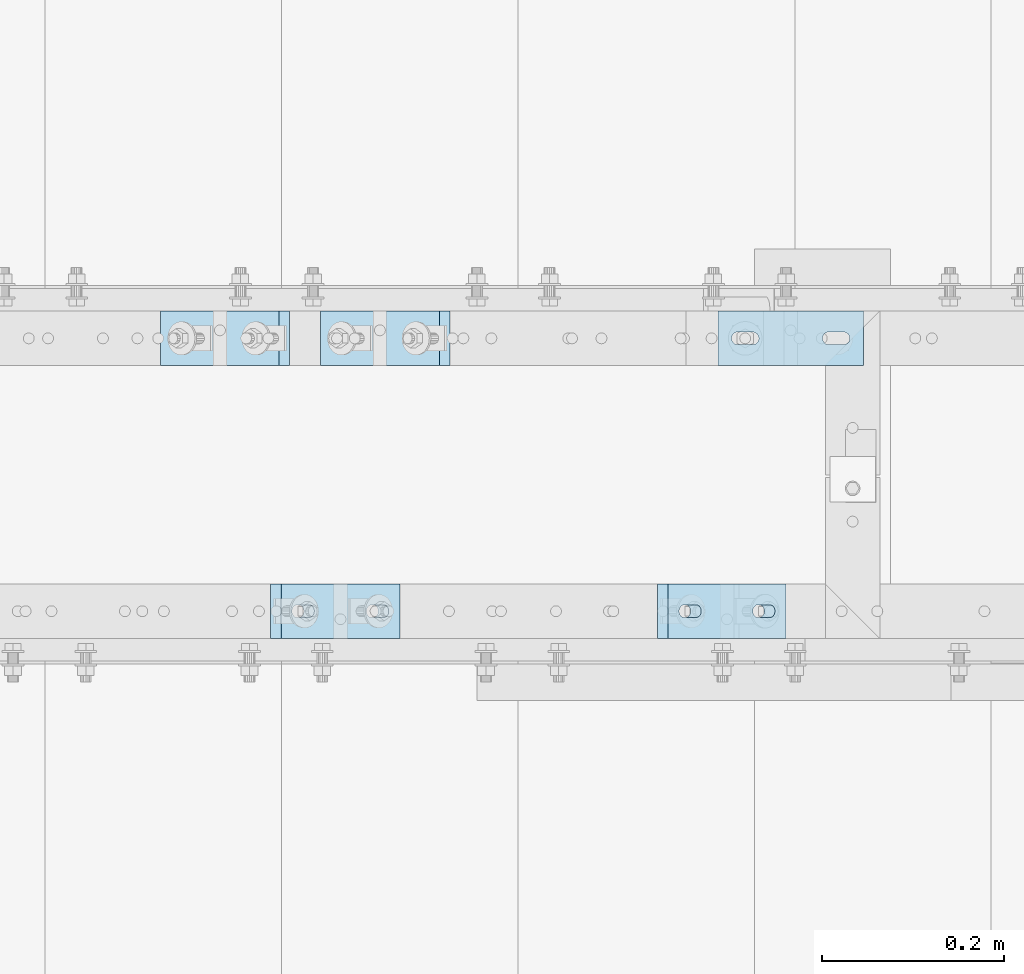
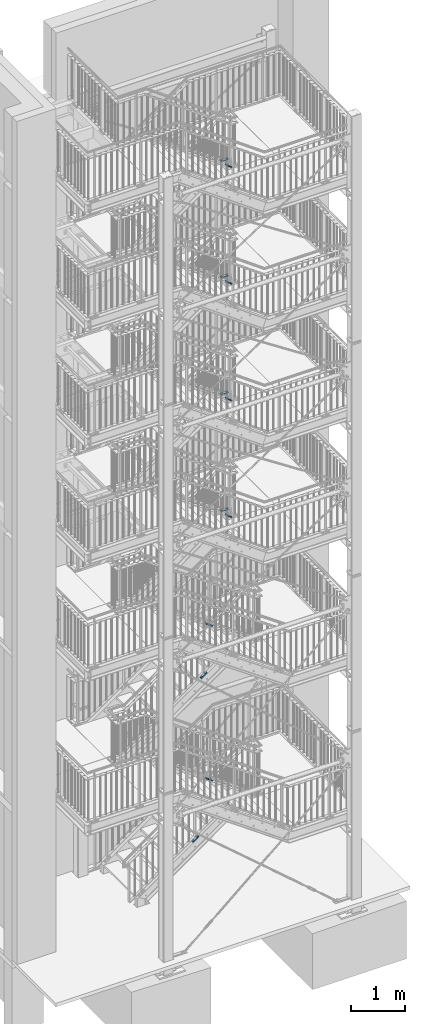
# One storey, part 174 of 825: 12 plates, 24 openings.
"""IFC2X3 building model written with IfcOpenShell, lengths in millimetres."""

import ifcopenshell
import ifcopenshell.guid

model = None  # the IFC model being written
_history = None  # IfcOwnerHistory: only IFC2X3 demands one
_inside = {}  # id of a spatial element -> (the spatial element, [elements in it])
_under = {}  # id of a project, library or spatial element -> (it, [spatial elements below it])
_declared = {}  # id of a project -> (the project, [libraries it declares])
_typed = {}  # id of a type object -> (the type object, [elements of that type])
_made_of = {}  # id of a material, layer set ... -> (it, [elements and type objects made of it])


def new_model(schema):
    """Start an empty IFC model of exactly this schema.

    Asked for "IFC4X3", IfcOpenShell would pick the latest addendum, in which some entities
    have other attributes; the version numbers below select the first issue.
    IFC2X3 requires an IfcOwnerHistory on every rooted entity: one is made here for all.
    """
    global model, _history
    if schema == "IFC4X3":
        model = ifcopenshell.file(schema_version=(4, 3, 0, 0))
    else:
        model = ifcopenshell.file(schema=schema)
    _inside.clear()
    _under.clear()
    _declared.clear()
    _typed.clear()
    _made_of.clear()
    _history = None
    if model.schema == "IFC2X3":
        org = make("IfcOrganization", Name="unknown")
        user = make(
            "IfcPersonAndOrganization",
            ThePerson=make("IfcPerson", FamilyName="unknown"),
            TheOrganization=org,
        )
        app = make(
            "IfcApplication",
            ApplicationDeveloper=org,
            Version="unknown",
            ApplicationFullName="unknown",
            ApplicationIdentifier="unknown",
        )
        _history = make(
            "IfcOwnerHistory",
            OwningUser=user,
            OwningApplication=app,
            ChangeAction="ADDED",
            CreationDate=0,
        )
    return model


def make(cls, **values):
    """One entity of the class cls with the attributes given. An attribute that is None is left unset."""
    return model.create_entity(
        cls, **{name: value for name, value in values.items() if value is not None}
    )


def entity(cls, *values):
    """Any entity or typed value of the class cls, its attributes in the order of the schema. None: left unset."""
    e = model.create_entity(cls)
    for i, value in enumerate(values):
        if value is not None:
            e[i] = value
    return e


def rooted(cls, **values):
    """An entity with a GlobalId (a new one), such as an element, a storey or a relation."""
    return make(cls, GlobalId=ifcopenshell.guid.new(), OwnerHistory=_history, **values)


def si_unit(unit_type, name, prefix=None):
    """IfcSIUnit, for example si_unit("LENGTHUNIT", "METRE", prefix="MILLI")."""
    return make("IfcSIUnit", UnitType=unit_type, Prefix=prefix, Name=name)


def converted_unit(unit_type, name, factor, base, dimensions=None, offset=None):
    """IfcConversionBasedUnit, such as the inch: factor (a typed value) times the base unit."""
    return make(
        "IfcConversionBasedUnit"
        if offset is None
        else "IfcConversionBasedUnitWithOffset",
        ConversionOffset=offset,
        Dimensions=None
        if dimensions is None
        else entity("IfcDimensionalExponents", *dimensions),
        UnitType=unit_type,
        Name=name,
        ConversionFactor=make(
            "IfcMeasureWithUnit", ValueComponent=factor, UnitComponent=base
        ),
    )


def assignment(units):
    """IfcUnitAssignment: the units of a project."""
    return None if units is None else make("IfcUnitAssignment", Units=units)


def point(xyz):
    """IfcCartesianPoint."""
    return None if xyz is None else make("IfcCartesianPoint", Coordinates=xyz)


def direction(xyz):
    """IfcDirection."""
    return None if xyz is None else make("IfcDirection", DirectionRatios=xyz)


def frame(location, z_axis=None, x_axis=None):
    """IfcAxis2Placement3D, a coordinate frame: its origin and axes. An axis left out is left unset."""
    return make(
        "IfcAxis2Placement3D",
        Location=point(location),
        Axis=direction(z_axis),
        RefDirection=direction(x_axis),
    )


def frame_2d(location, x_axis=None):
    """IfcAxis2Placement2D, a coordinate frame in the plane: its origin and x axis."""
    return make(
        "IfcAxis2Placement2D", Location=point(location), RefDirection=direction(x_axis)
    )


def origin():
    """The frame at (0, 0, 0) with its axes left unset."""
    return frame((0.0, 0.0, 0.0))


def origin_with_axes():
    """The frame at (0, 0, 0) with the z axis (0, 0, 1) and the x axis (1, 0, 0) written out."""
    return frame((0.0, 0.0, 0.0), z_axis=(0.0, 0.0, 1.0), x_axis=(1.0, 0.0, 0.0))


def place(relative_to, where):
    """IfcLocalPlacement: puts the frame where relative to a parent placement (None: the world)."""
    return make(
        "IfcLocalPlacement", PlacementRelTo=relative_to, RelativePlacement=where
    )


def context(
    kind, dimensions, precision=None, world=None, true_north=None, identifier=None
):
    """IfcGeometricRepresentationContext, for example the 3D "Model" context."""
    return make(
        "IfcGeometricRepresentationContext",
        ContextIdentifier=identifier,
        ContextType=kind,
        CoordinateSpaceDimension=dimensions,
        Precision=precision,
        WorldCoordinateSystem=world,
        TrueNorth=true_north,
    )


def project(units=None, contexts=None):
    """IfcProject with its units and contexts."""
    return rooted(
        "IfcProject",
        Name="project",
        RepresentationContexts=contexts,
        UnitsInContext=assignment(units),
    )


def spatial(cls, under=None, at=None, **own):
    """A site, building, storey or space (cls), placed at a placement, below another one or the project."""
    s = rooted(cls, ObjectPlacement=at, **own)
    if under is not None:
        _under.setdefault(under.id(), (under, []))[1].append(s)
    return s


def polyline(points):
    """IfcPolyline through the points."""
    return make("IfcPolyline", Points=[point(p) for p in points])


def circle_curve(where, radius):
    """IfcCircle in the frame where."""
    return make("IfcCircle", Position=where, Radius=radius)


def line_curve(start, along, magnitude):
    """IfcLine from a point along a vector."""
    return make(
        "IfcLine",
        Pnt=point(start),
        Dir=make("IfcVector", Orientation=direction(along), Magnitude=magnitude),
    )


def trimmed(basis, trim1, trim2, sense, master):
    """IfcTrimmedCurve: the piece of a basis curve between two trims."""
    return make(
        "IfcTrimmedCurve",
        BasisCurve=basis,
        Trim1=trim1,
        Trim2=trim2,
        SenseAgreement=sense,
        MasterRepresentation=master,
    )


def segment(curve, same_sense, transition):
    """IfcCompositeCurveSegment."""
    return make(
        "IfcCompositeCurveSegment",
        Transition=transition,
        SameSense=same_sense,
        ParentCurve=curve,
    )


def composite_curve(segments, self_intersect=None):
    """IfcCompositeCurve: segments joined end to end."""
    return make("IfcCompositeCurve", Segments=segments, SelfIntersect=self_intersect)


def outline(outer, holes=None, kind="AREA"):
    """IfcArbitraryClosedProfileDef: a profile drawn as a closed curve; with holes, ...WithVoids."""
    if holes is None:
        return make("IfcArbitraryClosedProfileDef", ProfileType=kind, OuterCurve=outer)
    return make(
        "IfcArbitraryProfileDefWithVoids",
        ProfileType=kind,
        OuterCurve=outer,
        InnerCurves=holes,
    )


def extrude(swept, where, along, depth):
    """IfcExtrudedAreaSolid: the profile swept, set in the frame where, extruded along a direction by depth."""
    return make(
        "IfcExtrudedAreaSolid",
        SweptArea=swept,
        Position=where,
        ExtrudedDirection=direction(along),
        Depth=depth,
    )


def shape(context_of_items, identifier, shape_type, items):
    """IfcShapeRepresentation: the items that make up one representation, for example the "Body"."""
    return make(
        "IfcShapeRepresentation",
        ContextOfItems=context_of_items,
        RepresentationIdentifier=identifier,
        RepresentationType=shape_type,
        Items=items,
    )


def material(Name=None, Category=None):
    """IfcMaterial."""
    return make("IfcMaterial", Name=Name, Category=Category)


def layer(
    of_material, thickness, ventilated=None, Name=None, Category=None, Priority=None
):
    """IfcMaterialLayer: one layer of a wall or slab, of a material (None: an air gap)."""
    return make(
        "IfcMaterialLayer",
        Material=of_material,
        LayerThickness=thickness,
        IsVentilated=ventilated,
        Name=Name,
        Category=Category,
        Priority=Priority,
    )


def layer_set(layers, Name=None):
    """IfcMaterialLayerSet."""
    return make("IfcMaterialLayerSet", MaterialLayers=layers, LayerSetName=Name)


def made_of(thing, what):
    """Note that an element or type object is made of a material, layer set ...; save() writes the relation."""
    if what is not None:
        _made_of.setdefault(what.id(), (what, []))[1].append(thing)
    return thing


def element(
    cls,
    number,
    at=None,
    inside=None,
    cuts=None,
    type_object=None,
    material=None,
    context=None,
    identifier="Body",
    shape_type=None,
    held_by="IfcProductDefinitionShape",
    body=None,
    shapes=None,
    **own,
):
    """One element of the class cls, such as IfcWall. Its Tag is "e" and its number.

    at: its placement. inside: the storey or other place that contains it. cuts: it is an
    opening in that element (IfcRelVoidsElement). A single representation is given by context,
    identifier, shape_type and body (its items); several are given by shapes. held_by: the class
    of the entity that holds the representations. save() writes the other relations.
    """
    e = rooted(cls, Tag="e%d" % number, ObjectPlacement=at, **own)
    if body is not None:
        shapes = [shape(context, identifier, shape_type, body)]
    if shapes is not None:
        e.Representation = make(held_by, Representations=shapes)
    if inside is not None:
        _inside.setdefault(inside.id(), (inside, []))[1].append(e)
    if cuts is not None:
        rooted(
            "IfcRelVoidsElement", RelatingBuildingElement=cuts, RelatedOpeningElement=e
        )
    if type_object is not None:
        _typed.setdefault(type_object.id(), (type_object, []))[1].append(e)
    return made_of(e, material)


def aggregate(whole, parts):
    """IfcRelAggregates: a whole, such as a stair, and the parts it consists of."""
    return rooted("IfcRelAggregates", RelatingObject=whole, RelatedObjects=parts)


def save(model, path):
    """Write the relations noted so far, then the file.

    IfcRelAggregates (storeys below a building ...), IfcRelContainedInSpatialStructure (elements
    in a storey), IfcRelDefinesByType, IfcRelAssociatesMaterial and IfcRelDeclares: one each for
    every whole, place, type object, material and project.
    """
    for whole, parts in _under.values():
        aggregate(whole, parts)
    for where, things in _inside.values():
        rooted(
            "IfcRelContainedInSpatialStructure",
            RelatedElements=things,
            RelatingStructure=where,
        )
    for kind, things in _typed.values():
        rooted("IfcRelDefinesByType", RelatedObjects=things, RelatingType=kind)
    for what, things in _made_of.values():
        rooted("IfcRelAssociatesMaterial", RelatedObjects=things, RelatingMaterial=what)
    for by, libraries in _declared.values():
        rooted("IfcRelDeclares", RelatingContext=by, RelatedDefinitions=libraries)
    model.write(path)


model = new_model("IFC2X3")

# Units and contexts
model_context = context("Model", 3, precision=1e-09, world=origin_with_axes())
ifc_project = project(units=[si_unit("LENGTHUNIT", "METRE", prefix="MILLI"), si_unit("AREAUNIT", "SQUARE_METRE"), si_unit("VOLUMEUNIT", "CUBIC_METRE"), converted_unit("PLANEANGLEUNIT", "DEGREE", entity("IfcPlaneAngleMeasure", 0.01745329), si_unit("PLANEANGLEUNIT", "RADIAN"), dimensions=[0, 0, 0, 0, 0, 0, 0])], contexts=[model_context])

# Site, building, storey
site_placement = place(None, origin_with_axes())
site = spatial("IfcSite", under=ifc_project, at=site_placement, Name="Cnopf'sche Kinderklinik", CompositionType="ELEMENT")
building_placement = place(site_placement, origin_with_axes())
building = spatial("IfcBuilding", under=site, at=building_placement, Name="Struktur 1", CompositionType="ELEMENT")
storey_placement = place(building_placement, origin_with_axes())
storey = spatial("IfcBuildingStorey", under=building, at=storey_placement, Name="Default Storey", CompositionType="ELEMENT", Elevation=0.0)

# Plate, openings
ifc_material = material(Name="S235JR")
ifc_layer = layer(ifc_material, 20.0)
ifc_layer_set = layer_set([ifc_layer], Name="S235JR")
plate_1_placement = place(None, frame((6545.888810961, 6121.736971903, 1487.163948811), z_axis=(-0.579973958, 0.0, 0.814635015), x_axis=(-0.814635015, 0.0, -0.579973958)))
plate_1 = element("IfcPlate", 1, at=plate_1_placement, inside=storey, material=ifc_layer_set, Name="Plate#501", ObjectType="Plate#501", context=model_context, shape_type="SweptSolid", body=[
    extrude(outline(polyline([(0.0, 0.0), (160.0, 0.0), (160.0, 60.0), (0.0, 60.0), (0.0, 0.0)])), origin_with_axes(), (0.0, 0.0, 1.0), 20.0),
])
opening_1_placement = place(plate_1_placement, frame((38.0, 37.001, 20.5), z_axis=(0.0, 0.0, 1.0), x_axis=(-1.0, 0.0, 0.0)))
element("IfcOpeningElement", 2, at=opening_1_placement, cuts=plate_1, ObjectType="Opening", context=model_context, shape_type="SweptSolid", body=[
    extrude(outline(composite_curve([segment(trimmed(line_curve((0.0, 0.0), (1.0, 0.0), 16.0), [point((0.0, 0.0))], [point((16.0, 0.0))], True, "CARTESIAN"), True, "CONTINUOUS"), segment(trimmed(circle_curve(frame_2d((16.0, 7.001), x_axis=(1.0, 0.0)), 7.001), [point((16.0, 0.0))], [point((16.0, 14.002))], True, "CARTESIAN"), True, "CONTINUOUS"), segment(trimmed(line_curve((16.0, 14.002), (-1.0, 0.0), 16.0), [point((16.0, 14.002))], [point((0.0, 14.002))], True, "CARTESIAN"), True, "CONTINUOUS"), segment(trimmed(circle_curve(frame_2d((0.0, 7.001), x_axis=(1.0, 0.0)), 7.001), [point((0.0, 14.002))], [point((0.0, 0.0))], True, "CARTESIAN"), True, "CONTINUOUS")], self_intersect=False)), origin(), (0.0, 0.0, -1.0), 21.0),
])
opening_2_placement = place(plate_1_placement, frame((138.0, 37.001, 20.5), z_axis=(0.0, 0.0, 1.0), x_axis=(-1.0, 0.0, 0.0)))
element("IfcOpeningElement", 3, at=opening_2_placement, cuts=plate_1, ObjectType="Opening", context=model_context, shape_type="SweptSolid", body=[
    extrude(outline(composite_curve([segment(trimmed(line_curve((0.0, 0.0), (1.0, 0.0), 16.0), [point((0.0, 0.0))], [point((16.0, 0.0))], True, "CARTESIAN"), True, "CONTINUOUS"), segment(trimmed(circle_curve(frame_2d((16.0, 7.001), x_axis=(1.0, 0.0)), 7.001), [point((16.0, 0.0))], [point((16.0, 14.002))], True, "CARTESIAN"), True, "CONTINUOUS"), segment(trimmed(line_curve((16.0, 14.002), (-1.0, 0.0), 16.0), [point((16.0, 14.002))], [point((0.0, 14.002))], True, "CARTESIAN"), True, "CONTINUOUS"), segment(trimmed(circle_curve(frame_2d((0.0, 7.001), x_axis=(1.0, 0.0)), 7.001), [point((0.0, 14.002))], [point((0.0, 0.0))], True, "CARTESIAN"), True, "CONTINUOUS")], self_intersect=False)), origin(), (0.0, 0.0, -1.0), 21.0),
])

plate_2_placement = place(None, frame((6722.064782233, 6121.736971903, 5114.045615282), z_axis=(-0.575128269, 0.0, 0.818063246), x_axis=(-0.818063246, 0.0, -0.575128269)))
plate_2 = element("IfcPlate", 4, at=plate_2_placement, inside=storey, material=ifc_layer_set, Name="Plate#502", ObjectType="Plate#502", context=model_context, shape_type="SweptSolid", body=[
    extrude(outline(polyline([(0.0, 0.0), (160.0, 0.0), (160.0, 60.0), (0.0, 60.0), (0.0, 0.0)])), origin_with_axes(), (0.0, 0.0, 1.0), 20.0),
])
opening_3_placement = place(plate_2_placement, frame((38.0, 37.001, 20.5), z_axis=(0.0, 0.0, 1.0), x_axis=(-1.0, 0.0, 0.0)))
element("IfcOpeningElement", 5, at=opening_3_placement, cuts=plate_2, ObjectType="Opening", context=model_context, shape_type="SweptSolid", body=[
    extrude(outline(composite_curve([segment(trimmed(line_curve((0.0, 0.0), (1.0, 0.0), 16.0), [point((0.0, 0.0))], [point((16.0, 0.0))], True, "CARTESIAN"), True, "CONTINUOUS"), segment(trimmed(circle_curve(frame_2d((16.0, 7.001), x_axis=(1.0, 0.0)), 7.001), [point((16.0, 0.0))], [point((16.0, 14.002))], True, "CARTESIAN"), True, "CONTINUOUS"), segment(trimmed(line_curve((16.0, 14.002), (-1.0, 0.0), 16.0), [point((16.0, 14.002))], [point((0.0, 14.002))], True, "CARTESIAN"), True, "CONTINUOUS"), segment(trimmed(circle_curve(frame_2d((0.0, 7.001), x_axis=(1.0, 0.0)), 7.001), [point((0.0, 14.002))], [point((0.0, 0.0))], True, "CARTESIAN"), True, "CONTINUOUS")], self_intersect=False)), origin(), (0.0, 0.0, -1.0), 21.0),
])
opening_4_placement = place(plate_2_placement, frame((138.0, 37.001, 20.5), z_axis=(0.0, 0.0, 1.0), x_axis=(-1.0, 0.0, 0.0)))
element("IfcOpeningElement", 6, at=opening_4_placement, cuts=plate_2, ObjectType="Opening", context=model_context, shape_type="SweptSolid", body=[
    extrude(outline(composite_curve([segment(trimmed(line_curve((0.0, 0.0), (1.0, 0.0), 16.0), [point((0.0, 0.0))], [point((16.0, 0.0))], True, "CARTESIAN"), True, "CONTINUOUS"), segment(trimmed(circle_curve(frame_2d((16.0, 7.001), x_axis=(1.0, 0.0)), 7.001), [point((16.0, 0.0))], [point((16.0, 14.002))], True, "CARTESIAN"), True, "CONTINUOUS"), segment(trimmed(line_curve((16.0, 14.002), (-1.0, 0.0), 16.0), [point((16.0, 14.002))], [point((0.0, 14.002))], True, "CARTESIAN"), True, "CONTINUOUS"), segment(trimmed(circle_curve(frame_2d((0.0, 7.001), x_axis=(1.0, 0.0)), 7.001), [point((0.0, 14.002))], [point((0.0, 0.0))], True, "CARTESIAN"), True, "CONTINUOUS")], self_intersect=False)), origin(), (0.0, 0.0, -1.0), 21.0),
])

plate_3_placement = place(None, frame((7176.714402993, 6121.736971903, 8636.0), z_axis=(0.0, 0.0, 1.0), x_axis=(-1.0, 0.0, 0.0)))
plate_3 = element("IfcPlate", 7, at=plate_3_placement, inside=storey, material=ifc_layer_set, Name="Plate#502", ObjectType="Plate#502", context=model_context, shape_type="SweptSolid", body=[
    extrude(outline(polyline([(0.0, 0.0), (160.0, 0.0), (160.0, 60.0), (0.0, 60.0), (0.0, 0.0)])), origin_with_axes(), (0.0, 0.0, 1.0), 20.0),
])
opening_5_placement = place(plate_3_placement, frame((38.0, 37.001, 20.5), z_axis=(0.0, 0.0, 1.0), x_axis=(-1.0, 0.0, 0.0)))
element("IfcOpeningElement", 8, at=opening_5_placement, cuts=plate_3, ObjectType="Opening", context=model_context, shape_type="SweptSolid", body=[
    extrude(outline(composite_curve([segment(trimmed(line_curve((0.0, 0.0), (1.0, 0.0), 16.0), [point((0.0, 0.0))], [point((16.0, 0.0))], True, "CARTESIAN"), True, "CONTINUOUS"), segment(trimmed(circle_curve(frame_2d((16.0, 7.001), x_axis=(1.0, 0.0)), 7.001), [point((16.0, 0.0))], [point((16.0, 14.002))], True, "CARTESIAN"), True, "CONTINUOUS"), segment(trimmed(line_curve((16.0, 14.002), (-1.0, 0.0), 16.0), [point((16.0, 14.002))], [point((0.0, 14.002))], True, "CARTESIAN"), True, "CONTINUOUS"), segment(trimmed(circle_curve(frame_2d((0.0, 7.001), x_axis=(1.0, 0.0)), 7.001), [point((0.0, 14.002))], [point((0.0, 0.0))], True, "CARTESIAN"), True, "CONTINUOUS")], self_intersect=False)), origin(), (0.0, 0.0, -1.0), 21.0),
])
opening_6_placement = place(plate_3_placement, frame((138.0, 37.001, 20.5), z_axis=(0.0, 0.0, 1.0), x_axis=(-1.0, 0.0, 0.0)))
element("IfcOpeningElement", 9, at=opening_6_placement, cuts=plate_3, ObjectType="Opening", context=model_context, shape_type="SweptSolid", body=[
    extrude(outline(composite_curve([segment(trimmed(line_curve((0.0, 0.0), (1.0, 0.0), 16.0), [point((0.0, 0.0))], [point((16.0, 0.0))], True, "CARTESIAN"), True, "CONTINUOUS"), segment(trimmed(circle_curve(frame_2d((16.0, 7.001), x_axis=(1.0, 0.0)), 7.001), [point((16.0, 0.0))], [point((16.0, 14.002))], True, "CARTESIAN"), True, "CONTINUOUS"), segment(trimmed(line_curve((16.0, 14.002), (-1.0, 0.0), 16.0), [point((16.0, 14.002))], [point((0.0, 14.002))], True, "CARTESIAN"), True, "CONTINUOUS"), segment(trimmed(circle_curve(frame_2d((0.0, 7.001), x_axis=(1.0, 0.0)), 7.001), [point((0.0, 14.002))], [point((0.0, 0.0))], True, "CARTESIAN"), True, "CONTINUOUS")], self_intersect=False)), origin(), (0.0, 0.0, -1.0), 21.0),
])

plate_4_placement = place(None, frame((7176.714402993, 6121.736971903, 11265.5000003), z_axis=(0.0, 0.0, 1.0), x_axis=(-1.0, 0.0, 0.0)))
plate_4 = element("IfcPlate", 10, at=plate_4_placement, inside=storey, material=ifc_layer_set, Name="Plate#502", ObjectType="Plate#502", context=model_context, shape_type="SweptSolid", body=[
    extrude(outline(polyline([(0.0, 0.0), (160.0, 0.0), (160.0, 60.0), (0.0, 60.0), (0.0, 0.0)])), origin_with_axes(), (0.0, 0.0, 1.0), 20.0),
])
opening_7_placement = place(plate_4_placement, frame((38.0, 37.001, 20.5), z_axis=(0.0, 0.0, 1.0), x_axis=(-1.0, 0.0, 0.0)))
element("IfcOpeningElement", 11, at=opening_7_placement, cuts=plate_4, ObjectType="Opening", context=model_context, shape_type="SweptSolid", body=[
    extrude(outline(composite_curve([segment(trimmed(line_curve((0.0, 0.0), (1.0, 0.0), 16.0), [point((0.0, 0.0))], [point((16.0, 0.0))], True, "CARTESIAN"), True, "CONTINUOUS"), segment(trimmed(circle_curve(frame_2d((16.0, 7.001), x_axis=(1.0, 0.0)), 7.001), [point((16.0, 0.0))], [point((16.0, 14.002))], True, "CARTESIAN"), True, "CONTINUOUS"), segment(trimmed(line_curve((16.0, 14.002), (-1.0, 0.0), 16.0), [point((16.0, 14.002))], [point((0.0, 14.002))], True, "CARTESIAN"), True, "CONTINUOUS"), segment(trimmed(circle_curve(frame_2d((0.0, 7.001), x_axis=(1.0, 0.0)), 7.001), [point((0.0, 14.002))], [point((0.0, 0.0))], True, "CARTESIAN"), True, "CONTINUOUS")], self_intersect=False)), origin(), (0.0, 0.0, -1.0), 21.0),
])
opening_8_placement = place(plate_4_placement, frame((138.0, 37.001, 20.5), z_axis=(0.0, 0.0, 1.0), x_axis=(-1.0, 0.0, 0.0)))
element("IfcOpeningElement", 12, at=opening_8_placement, cuts=plate_4, ObjectType="Opening", context=model_context, shape_type="SweptSolid", body=[
    extrude(outline(composite_curve([segment(trimmed(line_curve((0.0, 0.0), (1.0, 0.0), 16.0), [point((0.0, 0.0))], [point((16.0, 0.0))], True, "CARTESIAN"), True, "CONTINUOUS"), segment(trimmed(circle_curve(frame_2d((16.0, 7.001), x_axis=(1.0, 0.0)), 7.001), [point((16.0, 0.0))], [point((16.0, 14.002))], True, "CARTESIAN"), True, "CONTINUOUS"), segment(trimmed(line_curve((16.0, 14.002), (-1.0, 0.0), 16.0), [point((16.0, 14.002))], [point((0.0, 14.002))], True, "CARTESIAN"), True, "CONTINUOUS"), segment(trimmed(circle_curve(frame_2d((0.0, 7.001), x_axis=(1.0, 0.0)), 7.001), [point((0.0, 14.002))], [point((0.0, 0.0))], True, "CARTESIAN"), True, "CONTINUOUS")], self_intersect=False)), origin(), (0.0, 0.0, -1.0), 21.0),
])

plate_5_placement = place(None, frame((7176.714402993, 6121.736971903, 13896.5000001), z_axis=(0.0, 0.0, 1.0), x_axis=(-1.0, 0.0, 0.0)))
plate_5 = element("IfcPlate", 13, at=plate_5_placement, inside=storey, material=ifc_layer_set, Name="Plate#502", ObjectType="Plate#502", context=model_context, shape_type="SweptSolid", body=[
    extrude(outline(polyline([(0.0, 0.0), (160.0, 0.0), (160.0, 60.0), (0.0, 60.0), (0.0, 0.0)])), origin_with_axes(), (0.0, 0.0, 1.0), 20.0),
])
opening_9_placement = place(plate_5_placement, frame((38.0, 37.001, 20.5), z_axis=(0.0, 0.0, 1.0), x_axis=(-1.0, 0.0, 0.0)))
element("IfcOpeningElement", 14, at=opening_9_placement, cuts=plate_5, ObjectType="Opening", context=model_context, shape_type="SweptSolid", body=[
    extrude(outline(composite_curve([segment(trimmed(line_curve((0.0, 0.0), (1.0, 0.0), 16.0), [point((0.0, 0.0))], [point((16.0, 0.0))], True, "CARTESIAN"), True, "CONTINUOUS"), segment(trimmed(circle_curve(frame_2d((16.0, 7.001), x_axis=(1.0, 0.0)), 7.001), [point((16.0, 0.0))], [point((16.0, 14.002))], True, "CARTESIAN"), True, "CONTINUOUS"), segment(trimmed(line_curve((16.0, 14.002), (-1.0, 0.0), 16.0), [point((16.0, 14.002))], [point((0.0, 14.002))], True, "CARTESIAN"), True, "CONTINUOUS"), segment(trimmed(circle_curve(frame_2d((0.0, 7.001), x_axis=(1.0, 0.0)), 7.001), [point((0.0, 14.002))], [point((0.0, 0.0))], True, "CARTESIAN"), True, "CONTINUOUS")], self_intersect=False)), origin(), (0.0, 0.0, -1.0), 21.0),
])
opening_10_placement = place(plate_5_placement, frame((138.0, 37.001, 20.5), z_axis=(0.0, 0.0, 1.0), x_axis=(-1.0, 0.0, 0.0)))
element("IfcOpeningElement", 15, at=opening_10_placement, cuts=plate_5, ObjectType="Opening", context=model_context, shape_type="SweptSolid", body=[
    extrude(outline(composite_curve([segment(trimmed(line_curve((0.0, 0.0), (1.0, 0.0), 16.0), [point((0.0, 0.0))], [point((16.0, 0.0))], True, "CARTESIAN"), True, "CONTINUOUS"), segment(trimmed(circle_curve(frame_2d((16.0, 7.001), x_axis=(1.0, 0.0)), 7.001), [point((16.0, 0.0))], [point((16.0, 14.002))], True, "CARTESIAN"), True, "CONTINUOUS"), segment(trimmed(line_curve((16.0, 14.002), (-1.0, 0.0), 16.0), [point((16.0, 14.002))], [point((0.0, 14.002))], True, "CARTESIAN"), True, "CONTINUOUS"), segment(trimmed(circle_curve(frame_2d((0.0, 7.001), x_axis=(1.0, 0.0)), 7.001), [point((0.0, 14.002))], [point((0.0, 0.0))], True, "CARTESIAN"), True, "CONTINUOUS")], self_intersect=False)), origin(), (0.0, 0.0, -1.0), 21.0),
])

plate_6_placement = place(None, frame((7176.714402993, 6121.736971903, 16524.0000003), z_axis=(0.0, 0.0, 1.0), x_axis=(-1.0, 0.0, 0.0)))
plate_6 = element("IfcPlate", 16, at=plate_6_placement, inside=storey, material=ifc_layer_set, Name="Plate#502", ObjectType="Plate#502", context=model_context, shape_type="SweptSolid", body=[
    extrude(outline(polyline([(0.0, 0.0), (160.0, 0.0), (160.0, 60.0), (0.0, 60.0), (0.0, 0.0)])), origin_with_axes(), (0.0, 0.0, 1.0), 20.0),
])
opening_11_placement = place(plate_6_placement, frame((38.0, 37.001, 20.5), z_axis=(0.0, 0.0, 1.0), x_axis=(-1.0, 0.0, 0.0)))
element("IfcOpeningElement", 17, at=opening_11_placement, cuts=plate_6, ObjectType="Opening", context=model_context, shape_type="SweptSolid", body=[
    extrude(outline(composite_curve([segment(trimmed(line_curve((0.0, 0.0), (1.0, 0.0), 16.0), [point((0.0, 0.0))], [point((16.0, 0.0))], True, "CARTESIAN"), True, "CONTINUOUS"), segment(trimmed(circle_curve(frame_2d((16.0, 7.001), x_axis=(1.0, 0.0)), 7.001), [point((16.0, 0.0))], [point((16.0, 14.002))], True, "CARTESIAN"), True, "CONTINUOUS"), segment(trimmed(line_curve((16.0, 14.002), (-1.0, 0.0), 16.0), [point((16.0, 14.002))], [point((0.0, 14.002))], True, "CARTESIAN"), True, "CONTINUOUS"), segment(trimmed(circle_curve(frame_2d((0.0, 7.001), x_axis=(1.0, 0.0)), 7.001), [point((0.0, 14.002))], [point((0.0, 0.0))], True, "CARTESIAN"), True, "CONTINUOUS")], self_intersect=False)), origin(), (0.0, 0.0, -1.0), 21.0),
])
opening_12_placement = place(plate_6_placement, frame((138.0, 37.001, 20.5), z_axis=(0.0, 0.0, 1.0), x_axis=(-1.0, 0.0, 0.0)))
element("IfcOpeningElement", 18, at=opening_12_placement, cuts=plate_6, ObjectType="Opening", context=model_context, shape_type="SweptSolid", body=[
    extrude(outline(composite_curve([segment(trimmed(line_curve((0.0, 0.0), (1.0, 0.0), 16.0), [point((0.0, 0.0))], [point((16.0, 0.0))], True, "CARTESIAN"), True, "CONTINUOUS"), segment(trimmed(circle_curve(frame_2d((16.0, 7.001), x_axis=(1.0, 0.0)), 7.001), [point((16.0, 0.0))], [point((16.0, 14.002))], True, "CARTESIAN"), True, "CONTINUOUS"), segment(trimmed(line_curve((16.0, 14.002), (-1.0, 0.0), 16.0), [point((16.0, 14.002))], [point((0.0, 14.002))], True, "CARTESIAN"), True, "CONTINUOUS"), segment(trimmed(circle_curve(frame_2d((0.0, 7.001), x_axis=(1.0, 0.0)), 7.001), [point((0.0, 14.002))], [point((0.0, 0.0))], True, "CARTESIAN"), True, "CONTINUOUS")], self_intersect=False)), origin(), (0.0, 0.0, -1.0), 21.0),
])

plate_7_placement = place(None, frame((6525.039372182, 5761.736971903, 2969.784932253), z_axis=(0.579973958, 0.0, 0.814635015), x_axis=(0.814635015, 0.0, -0.579973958)))
plate_7 = element("IfcPlate", 19, at=plate_7_placement, inside=storey, material=ifc_layer_set, Name="Plate#501", ObjectType="Plate#501", context=model_context, shape_type="SweptSolid", body=[
    extrude(outline(polyline([(0.0, 0.0), (160.0, 0.0), (160.0, 60.0), (0.0, 60.0), (0.0, 0.0)])), origin_with_axes(), (0.0, 0.0, 1.0), 20.0),
])
opening_13_placement = place(plate_7_placement, frame((38.0, 37.001, 20.5), z_axis=(0.0, 0.0, 1.0), x_axis=(-1.0, 0.0, 0.0)))
element("IfcOpeningElement", 20, at=opening_13_placement, cuts=plate_7, ObjectType="Opening", context=model_context, shape_type="SweptSolid", body=[
    extrude(outline(composite_curve([segment(trimmed(line_curve((0.0, 0.0), (1.0, 0.0), 16.0), [point((0.0, 0.0))], [point((16.0, 0.0))], True, "CARTESIAN"), True, "CONTINUOUS"), segment(trimmed(circle_curve(frame_2d((16.0, 7.001), x_axis=(1.0, 0.0)), 7.001), [point((16.0, 0.0))], [point((16.0, 14.002))], True, "CARTESIAN"), True, "CONTINUOUS"), segment(trimmed(line_curve((16.0, 14.002), (-1.0, 0.0), 16.0), [point((16.0, 14.002))], [point((0.0, 14.002))], True, "CARTESIAN"), True, "CONTINUOUS"), segment(trimmed(circle_curve(frame_2d((0.0, 7.001), x_axis=(1.0, 0.0)), 7.001), [point((0.0, 14.002))], [point((0.0, 0.0))], True, "CARTESIAN"), True, "CONTINUOUS")], self_intersect=False)), origin(), (0.0, 0.0, -1.0), 21.0),
])
opening_14_placement = place(plate_7_placement, frame((138.0, 37.001, 20.5), z_axis=(0.0, 0.0, 1.0), x_axis=(-1.0, 0.0, 0.0)))
element("IfcOpeningElement", 21, at=opening_14_placement, cuts=plate_7, ObjectType="Opening", context=model_context, shape_type="SweptSolid", body=[
    extrude(outline(composite_curve([segment(trimmed(line_curve((0.0, 0.0), (1.0, 0.0), 16.0), [point((0.0, 0.0))], [point((16.0, 0.0))], True, "CARTESIAN"), True, "CONTINUOUS"), segment(trimmed(circle_curve(frame_2d((16.0, 7.001), x_axis=(1.0, 0.0)), 7.001), [point((16.0, 0.0))], [point((16.0, 14.002))], True, "CARTESIAN"), True, "CONTINUOUS"), segment(trimmed(line_curve((16.0, 14.002), (-1.0, 0.0), 16.0), [point((16.0, 14.002))], [point((0.0, 14.002))], True, "CARTESIAN"), True, "CONTINUOUS"), segment(trimmed(circle_curve(frame_2d((0.0, 7.001), x_axis=(1.0, 0.0)), 7.001), [point((0.0, 14.002))], [point((0.0, 0.0))], True, "CARTESIAN"), True, "CONTINUOUS")], self_intersect=False)), origin(), (0.0, 0.0, -1.0), 21.0),
])

plate_8_placement = place(None, frame((6524.696357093, 5761.736971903, 6454.501052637), z_axis=(0.57512827, 0.0, 0.818063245), x_axis=(0.818063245, 0.0, -0.57512827)))
plate_8 = element("IfcPlate", 22, at=plate_8_placement, inside=storey, material=ifc_layer_set, Name="Plate#501", ObjectType="Plate#501", context=model_context, shape_type="SweptSolid", body=[
    extrude(outline(polyline([(0.0, 0.0), (160.0, 0.0), (160.0, 60.0), (0.0, 60.0), (0.0, 0.0)])), origin_with_axes(), (0.0, 0.0, 1.0), 20.0),
])
opening_15_placement = place(plate_8_placement, frame((38.0, 37.001, 20.5), z_axis=(0.0, 0.0, 1.0), x_axis=(-1.0, 0.0, 0.0)))
element("IfcOpeningElement", 23, at=opening_15_placement, cuts=plate_8, ObjectType="Opening", context=model_context, shape_type="SweptSolid", body=[
    extrude(outline(composite_curve([segment(trimmed(line_curve((0.0, 0.0), (1.0, 0.0), 16.0), [point((0.0, 0.0))], [point((16.0, 0.0))], True, "CARTESIAN"), True, "CONTINUOUS"), segment(trimmed(circle_curve(frame_2d((16.0, 7.001), x_axis=(1.0, 0.0)), 7.001), [point((16.0, 0.0))], [point((16.0, 14.002))], True, "CARTESIAN"), True, "CONTINUOUS"), segment(trimmed(line_curve((16.0, 14.002), (-1.0, 0.0), 16.0), [point((16.0, 14.002))], [point((0.0, 14.002))], True, "CARTESIAN"), True, "CONTINUOUS"), segment(trimmed(circle_curve(frame_2d((0.0, 7.001), x_axis=(1.0, 0.0)), 7.001), [point((0.0, 14.002))], [point((0.0, 0.0))], True, "CARTESIAN"), True, "CONTINUOUS")], self_intersect=False)), origin(), (0.0, 0.0, -1.0), 21.0),
])
opening_16_placement = place(plate_8_placement, frame((138.0, 37.001, 20.5), z_axis=(0.0, 0.0, 1.0), x_axis=(-1.0, 0.0, 0.0)))
element("IfcOpeningElement", 24, at=opening_16_placement, cuts=plate_8, ObjectType="Opening", context=model_context, shape_type="SweptSolid", body=[
    extrude(outline(composite_curve([segment(trimmed(line_curve((0.0, 0.0), (1.0, 0.0), 16.0), [point((0.0, 0.0))], [point((16.0, 0.0))], True, "CARTESIAN"), True, "CONTINUOUS"), segment(trimmed(circle_curve(frame_2d((16.0, 7.001), x_axis=(1.0, 0.0)), 7.001), [point((16.0, 0.0))], [point((16.0, 14.002))], True, "CARTESIAN"), True, "CONTINUOUS"), segment(trimmed(line_curve((16.0, 14.002), (-1.0, 0.0), 16.0), [point((16.0, 14.002))], [point((0.0, 14.002))], True, "CARTESIAN"), True, "CONTINUOUS"), segment(trimmed(circle_curve(frame_2d((0.0, 7.001), x_axis=(1.0, 0.0)), 7.001), [point((0.0, 14.002))], [point((0.0, 0.0))], True, "CARTESIAN"), True, "CONTINUOUS")], self_intersect=False)), origin(), (0.0, 0.0, -1.0), 21.0),
])

plate_9_placement = place(None, frame((6950.1917864, 5761.736971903, 8753.023322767), z_axis=(0.585945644, 0.0, 0.810350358), x_axis=(0.810350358, 0.0, -0.585945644)))
plate_9 = element("IfcPlate", 25, at=plate_9_placement, inside=storey, material=ifc_layer_set, Name="Plate#500", ObjectType="Plate#500", context=model_context, shape_type="SweptSolid", body=[
    extrude(outline(polyline([(0.0, 0.0), (160.0, 0.0), (160.0, 60.0), (0.0, 60.0), (0.0, 0.0)])), origin_with_axes(), (0.0, 0.0, 1.0), 20.0),
])
opening_17_placement = place(plate_9_placement, frame((38.0, 37.001, 20.5), z_axis=(0.0, 0.0, 1.0), x_axis=(-1.0, 0.0, 0.0)))
element("IfcOpeningElement", 26, at=opening_17_placement, cuts=plate_9, ObjectType="Opening", context=model_context, shape_type="SweptSolid", body=[
    extrude(outline(composite_curve([segment(trimmed(line_curve((0.0, 0.0), (1.0, 0.0), 16.0), [point((0.0, 0.0))], [point((16.0, 0.0))], True, "CARTESIAN"), True, "CONTINUOUS"), segment(trimmed(circle_curve(frame_2d((16.0, 7.001), x_axis=(1.0, 0.0)), 7.001), [point((16.0, 0.0))], [point((16.0, 14.002))], True, "CARTESIAN"), True, "CONTINUOUS"), segment(trimmed(line_curve((16.0, 14.002), (-1.0, 0.0), 16.0), [point((16.0, 14.002))], [point((0.0, 14.002))], True, "CARTESIAN"), True, "CONTINUOUS"), segment(trimmed(circle_curve(frame_2d((0.0, 7.001), x_axis=(1.0, 0.0)), 7.001), [point((0.0, 14.002))], [point((0.0, 0.0))], True, "CARTESIAN"), True, "CONTINUOUS")], self_intersect=False)), origin(), (0.0, 0.0, -1.0), 21.0),
])
opening_18_placement = place(plate_9_placement, frame((138.0, 37.001, 20.5), z_axis=(0.0, 0.0, 1.0), x_axis=(-1.0, 0.0, 0.0)))
element("IfcOpeningElement", 27, at=opening_18_placement, cuts=plate_9, ObjectType="Opening", context=model_context, shape_type="SweptSolid", body=[
    extrude(outline(composite_curve([segment(trimmed(line_curve((0.0, 0.0), (1.0, 0.0), 16.0), [point((0.0, 0.0))], [point((16.0, 0.0))], True, "CARTESIAN"), True, "CONTINUOUS"), segment(trimmed(circle_curve(frame_2d((16.0, 7.001), x_axis=(1.0, 0.0)), 7.001), [point((16.0, 0.0))], [point((16.0, 14.002))], True, "CARTESIAN"), True, "CONTINUOUS"), segment(trimmed(line_curve((16.0, 14.002), (-1.0, 0.0), 16.0), [point((16.0, 14.002))], [point((0.0, 14.002))], True, "CARTESIAN"), True, "CONTINUOUS"), segment(trimmed(circle_curve(frame_2d((0.0, 7.001), x_axis=(1.0, 0.0)), 7.001), [point((0.0, 14.002))], [point((0.0, 0.0))], True, "CARTESIAN"), True, "CONTINUOUS")], self_intersect=False)), origin(), (0.0, 0.0, -1.0), 21.0),
])

plate_10_placement = place(None, frame((6950.146766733, 5761.736971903, 11382.40949299), z_axis=(0.585213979, 0.0, 0.810878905), x_axis=(0.810878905, 0.0, -0.585213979)))
plate_10 = element("IfcPlate", 28, at=plate_10_placement, inside=storey, material=ifc_layer_set, Name="Plate#500", ObjectType="Plate#500", context=model_context, shape_type="SweptSolid", body=[
    extrude(outline(polyline([(0.0, 0.0), (160.0, 0.0), (160.0, 60.0), (0.0, 60.0), (0.0, 0.0)])), origin_with_axes(), (0.0, 0.0, 1.0), 20.0),
])
opening_19_placement = place(plate_10_placement, frame((38.0, 37.001, 20.5), z_axis=(0.0, 0.0, 1.0), x_axis=(-1.0, 0.0, 0.0)))
element("IfcOpeningElement", 29, at=opening_19_placement, cuts=plate_10, ObjectType="Opening", context=model_context, shape_type="SweptSolid", body=[
    extrude(outline(composite_curve([segment(trimmed(line_curve((0.0, 0.0), (1.0, 0.0), 16.0), [point((0.0, 0.0))], [point((16.0, 0.0))], True, "CARTESIAN"), True, "CONTINUOUS"), segment(trimmed(circle_curve(frame_2d((16.0, 7.001), x_axis=(1.0, 0.0)), 7.001), [point((16.0, 0.0))], [point((16.0, 14.002))], True, "CARTESIAN"), True, "CONTINUOUS"), segment(trimmed(line_curve((16.0, 14.002), (-1.0, 0.0), 16.0), [point((16.0, 14.002))], [point((0.0, 14.002))], True, "CARTESIAN"), True, "CONTINUOUS"), segment(trimmed(circle_curve(frame_2d((0.0, 7.001), x_axis=(1.0, 0.0)), 7.001), [point((0.0, 14.002))], [point((0.0, 0.0))], True, "CARTESIAN"), True, "CONTINUOUS")], self_intersect=False)), origin(), (0.0, 0.0, -1.0), 21.0),
])
opening_20_placement = place(plate_10_placement, frame((138.0, 37.001, 20.5), z_axis=(0.0, 0.0, 1.0), x_axis=(-1.0, 0.0, 0.0)))
element("IfcOpeningElement", 30, at=opening_20_placement, cuts=plate_10, ObjectType="Opening", context=model_context, shape_type="SweptSolid", body=[
    extrude(outline(composite_curve([segment(trimmed(line_curve((0.0, 0.0), (1.0, 0.0), 16.0), [point((0.0, 0.0))], [point((16.0, 0.0))], True, "CARTESIAN"), True, "CONTINUOUS"), segment(trimmed(circle_curve(frame_2d((16.0, 7.001), x_axis=(1.0, 0.0)), 7.001), [point((16.0, 0.0))], [point((16.0, 14.002))], True, "CARTESIAN"), True, "CONTINUOUS"), segment(trimmed(line_curve((16.0, 14.002), (-1.0, 0.0), 16.0), [point((16.0, 14.002))], [point((0.0, 14.002))], True, "CARTESIAN"), True, "CONTINUOUS"), segment(trimmed(circle_curve(frame_2d((0.0, 7.001), x_axis=(1.0, 0.0)), 7.001), [point((0.0, 14.002))], [point((0.0, 0.0))], True, "CARTESIAN"), True, "CONTINUOUS")], self_intersect=False)), origin(), (0.0, 0.0, -1.0), 21.0),
])

plate_11_placement = place(None, frame((6950.218796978, 5761.736971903, 14013.591562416), z_axis=(0.586383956, 0.0, 0.810033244), x_axis=(0.810033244, 0.0, -0.586383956)))
plate_11 = element("IfcPlate", 31, at=plate_11_placement, inside=storey, material=ifc_layer_set, Name="Plate#500", ObjectType="Plate#500", context=model_context, shape_type="SweptSolid", body=[
    extrude(outline(polyline([(0.0, 0.0), (160.0, 0.0), (160.0, 60.0), (0.0, 60.0), (0.0, 0.0)])), origin_with_axes(), (0.0, 0.0, 1.0), 20.0),
])
opening_21_placement = place(plate_11_placement, frame((38.0, 37.001, 20.5), z_axis=(0.0, 0.0, 1.0), x_axis=(-1.0, 0.0, 0.0)))
element("IfcOpeningElement", 32, at=opening_21_placement, cuts=plate_11, ObjectType="Opening", context=model_context, shape_type="SweptSolid", body=[
    extrude(outline(composite_curve([segment(trimmed(line_curve((0.0, 0.0), (1.0, 0.0), 16.0), [point((0.0, 0.0))], [point((16.0, 0.0))], True, "CARTESIAN"), True, "CONTINUOUS"), segment(trimmed(circle_curve(frame_2d((16.0, 7.001), x_axis=(1.0, 0.0)), 7.001), [point((16.0, 0.0))], [point((16.0, 14.002))], True, "CARTESIAN"), True, "CONTINUOUS"), segment(trimmed(line_curve((16.0, 14.002), (-1.0, 0.0), 16.0), [point((16.0, 14.002))], [point((0.0, 14.002))], True, "CARTESIAN"), True, "CONTINUOUS"), segment(trimmed(circle_curve(frame_2d((0.0, 7.001), x_axis=(1.0, 0.0)), 7.001), [point((0.0, 14.002))], [point((0.0, 0.0))], True, "CARTESIAN"), True, "CONTINUOUS")], self_intersect=False)), origin(), (0.0, 0.0, -1.0), 21.0),
])
opening_22_placement = place(plate_11_placement, frame((138.0, 37.001, 20.5), z_axis=(0.0, 0.0, 1.0), x_axis=(-1.0, 0.0, 0.0)))
element("IfcOpeningElement", 33, at=opening_22_placement, cuts=plate_11, ObjectType="Opening", context=model_context, shape_type="SweptSolid", body=[
    extrude(outline(composite_curve([segment(trimmed(line_curve((0.0, 0.0), (1.0, 0.0), 16.0), [point((0.0, 0.0))], [point((16.0, 0.0))], True, "CARTESIAN"), True, "CONTINUOUS"), segment(trimmed(circle_curve(frame_2d((16.0, 7.001), x_axis=(1.0, 0.0)), 7.001), [point((16.0, 0.0))], [point((16.0, 14.002))], True, "CARTESIAN"), True, "CONTINUOUS"), segment(trimmed(line_curve((16.0, 14.002), (-1.0, 0.0), 16.0), [point((16.0, 14.002))], [point((0.0, 14.002))], True, "CARTESIAN"), True, "CONTINUOUS"), segment(trimmed(circle_curve(frame_2d((0.0, 7.001), x_axis=(1.0, 0.0)), 7.001), [point((0.0, 14.002))], [point((0.0, 0.0))], True, "CARTESIAN"), True, "CONTINUOUS")], self_intersect=False)), origin(), (0.0, 0.0, -1.0), 21.0),
])

plate_12_placement = place(None, frame((6950.083735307, 5761.736971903, 16640.749925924), z_axis=(0.584187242, 0.0, 0.811618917), x_axis=(0.811618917, 0.0, -0.584187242)))
plate_12 = element("IfcPlate", 34, at=plate_12_placement, inside=storey, material=ifc_layer_set, Name="Plate#500", ObjectType="Plate#500", context=model_context, shape_type="SweptSolid", body=[
    extrude(outline(polyline([(0.0, 0.0), (160.0, 0.0), (160.0, 60.0), (0.0, 60.0), (0.0, 0.0)])), origin_with_axes(), (0.0, 0.0, 1.0), 20.0),
])
opening_23_placement = place(plate_12_placement, frame((38.0, 37.001, 20.5), z_axis=(0.0, 0.0, 1.0), x_axis=(-1.0, 0.0, 0.0)))
element("IfcOpeningElement", 35, at=opening_23_placement, cuts=plate_12, ObjectType="Opening", context=model_context, shape_type="SweptSolid", body=[
    extrude(outline(composite_curve([segment(trimmed(line_curve((0.0, 0.0), (1.0, 0.0), 16.0), [point((0.0, 0.0))], [point((16.0, 0.0))], True, "CARTESIAN"), True, "CONTINUOUS"), segment(trimmed(circle_curve(frame_2d((16.0, 7.001), x_axis=(1.0, 0.0)), 7.001), [point((16.0, 0.0))], [point((16.0, 14.002))], True, "CARTESIAN"), True, "CONTINUOUS"), segment(trimmed(line_curve((16.0, 14.002), (-1.0, 0.0), 16.0), [point((16.0, 14.002))], [point((0.0, 14.002))], True, "CARTESIAN"), True, "CONTINUOUS"), segment(trimmed(circle_curve(frame_2d((0.0, 7.001), x_axis=(1.0, 0.0)), 7.001), [point((0.0, 14.002))], [point((0.0, 0.0))], True, "CARTESIAN"), True, "CONTINUOUS")], self_intersect=False)), origin(), (0.0, 0.0, -1.0), 21.0),
])
opening_24_placement = place(plate_12_placement, frame((138.0, 37.001, 20.5), z_axis=(0.0, 0.0, 1.0), x_axis=(-1.0, 0.0, 0.0)))
element("IfcOpeningElement", 36, at=opening_24_placement, cuts=plate_12, ObjectType="Opening", context=model_context, shape_type="SweptSolid", body=[
    extrude(outline(composite_curve([segment(trimmed(line_curve((0.0, 0.0), (1.0, 0.0), 16.0), [point((0.0, 0.0))], [point((16.0, 0.0))], True, "CARTESIAN"), True, "CONTINUOUS"), segment(trimmed(circle_curve(frame_2d((16.0, 7.001), x_axis=(1.0, 0.0)), 7.001), [point((16.0, 0.0))], [point((16.0, 14.002))], True, "CARTESIAN"), True, "CONTINUOUS"), segment(trimmed(line_curve((16.0, 14.002), (-1.0, 0.0), 16.0), [point((16.0, 14.002))], [point((0.0, 14.002))], True, "CARTESIAN"), True, "CONTINUOUS"), segment(trimmed(circle_curve(frame_2d((0.0, 7.001), x_axis=(1.0, 0.0)), 7.001), [point((0.0, 14.002))], [point((0.0, 0.0))], True, "CARTESIAN"), True, "CONTINUOUS")], self_intersect=False)), origin(), (0.0, 0.0, -1.0), 21.0),
])

save(model, "model.ifc")
